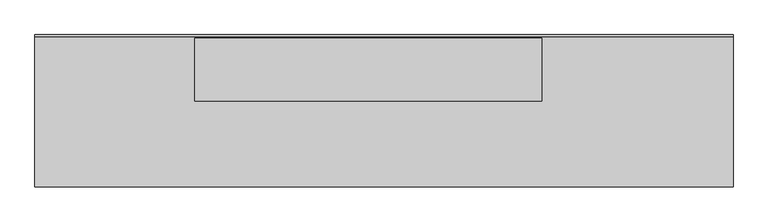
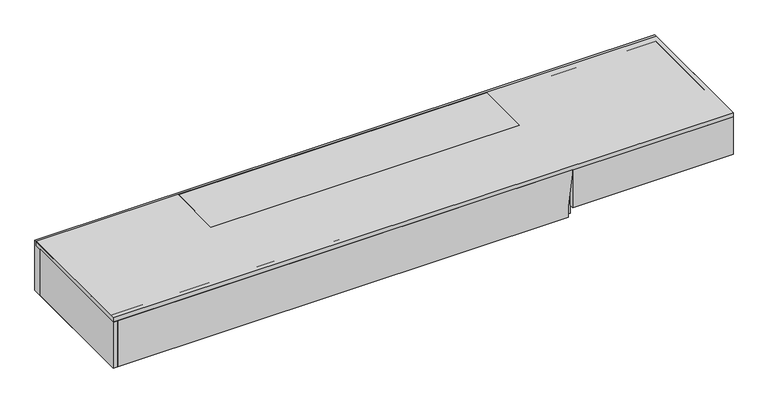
"""IFC4 building model written with IfcOpenShell, lengths in millimetres: proxy geometry, AERO^OFFICE 4_25x78 HAT BRIDGE-PARTS SOLID."""

from ifc_helpers import new_model, si_unit, frame, origin, origin_with_axes, place, context, project, spatial, polyline, outline, extrude, faceted_brep, source, transform, mapped, element, save


def generic_models_a146d820(model_context):
    return source(origin(), model_context, "Body", "SolidModel", [
        extrude(outline(polyline([(209.55, 19.05), (0.0, 19.05), (0.0, 1962.15), (50.8, 1962.15), (209.55, 1981.2), (209.55, 19.05)])), frame((0.0, -546.1, 0.0), z_axis=(0.0, 1.0, 0.0), x_axis=(0.0, 0.0, 1.0)), (0.0, 0.0, 1.0), 19.05),
        extrude(outline(polyline([(0.0, 0.0), (19.05, 0.0), (19.05, -546.1), (0.0, -546.1), (0.0, 0.0)])), origin_with_axes(), (0.0, 0.0, 1.0), 209.55),
        extrude(outline(polyline([(611.98125, -216.69375), (611.98125, 25.4), (1940.71875, 25.4), (1940.71875, -216.69375), (611.98125, -216.69375)])), frame((0.0, 0.0, 209.55), z_axis=(0.0, 0.0, 1.0), x_axis=(1.0, 0.0, 0.0)), (0.0, 0.0, 1.0), 19.05),
        extrude(outline(polyline([(2673.35, 28.575), (2673.35, -546.1), (0.0, -546.1), (0.0, 28.575), (2673.35, 28.575)])), frame((0.0, 0.0, 209.55), z_axis=(0.0, 0.0, 1.0), x_axis=(1.0, 0.0, 0.0)), (0.0, 0.0, 1.0), 19.05),
        faceted_brep([(1981.2, 0.0, 228.6), (1981.2, -527.05, 228.6), (1981.2, -527.05, 0.0), (1981.2, 38.1, 0.0), (1981.2, 38.1, 38.1), (1981.2, 0.0, 38.1), (2654.3, 0.0, 228.6), (2654.3, -527.05, 228.6), (2673.35, -527.05, 228.6), (2673.35, 38.1, 228.6), (0.0, 38.1, 228.6), (0.0, -527.05, 228.6), (2654.3, 0.0, 38.1), (0.0, -527.05, 0.0), (0.0, 38.1, 0.0), (2673.35, 38.1, 38.1), (2673.35, -527.05, 38.1), (2654.3, -527.05, 38.1)], [[[0, 1, 2, 3, 4, 5]], [[6, 7, 8, 9, 10, 11, 1, 0]], [[6, 0, 5, 12]], [[13, 11, 10, 14]], [[1, 11, 13, 2]], [[15, 4, 3, 14, 10, 9]], [[9, 8, 16, 15]], [[17, 7, 6, 12]], [[7, 17, 16, 8]], [[4, 15, 16, 17, 12, 5]], [[3, 2, 13, 14]]]),
        extrude(outline(polyline([(1981.2, -527.05), (2673.35, -527.05), (2673.35, -546.1), (1981.2, -546.1), (1981.2, -527.05)])), frame((0.0, 0.0, 38.1), z_axis=(0.0, 0.0, 1.0), x_axis=(1.0, 0.0, 0.0)), (0.0, 0.0, 1.0), 171.45),
    ])


if __name__ == "__main__":
    model = new_model("IFC4")
    model_context = context("Model", 3, world=origin())
    ifc_project = project(units=[si_unit("LENGTHUNIT", "METRE", prefix="MILLI")], contexts=[model_context])
    site = spatial("IfcSite", under=ifc_project)
    building = spatial("IfcBuilding", under=site)
    placement = place(None, origin())
    generic_models_shape = generic_models_a146d820(model_context)
    element("IfcBuildingElementProxy", 1, Name="AERO^OFFICE 4_25x78 HAT BRIDGE-PARTS SOLID", ObjectType="AERO^OFFICE 4_25x78 HAT BRIDGE-PARTS SOLID", at=placement, inside=building, context=model_context, shape_type="MappedRepresentation", body=[
        mapped(generic_models_shape, transform((0.0, 0.0, 0.0), x_axis=(1.0, 0.0, 0.0), y_axis=(0.0, 1.0, 0.0), z_axis=(0.0, 0.0, 1.0))),
    ])
    save(model, "model.ifc")
